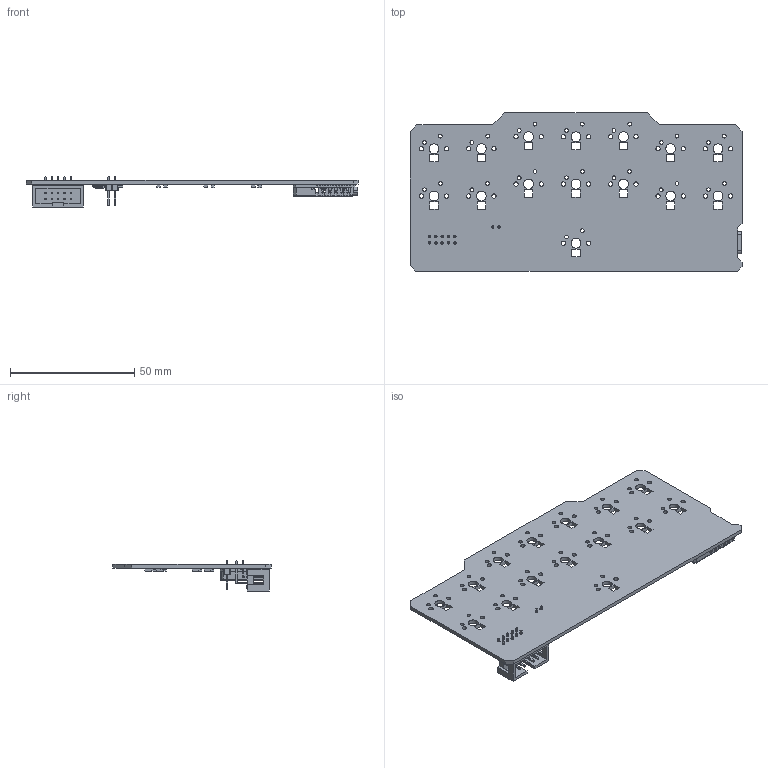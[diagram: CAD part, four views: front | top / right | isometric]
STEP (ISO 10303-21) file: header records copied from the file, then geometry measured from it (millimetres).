
FILE_DESCRIPTION(('KiCad electronic assembly'),'2;1');
FILE_NAME('keyboard.step','2026-02-09T20:20:30',('Pcbnew'),('Kicad'), 'Open CASCADE STEP processor 7.8','KiCad to STEP converter','Unknown' );
FILE_SCHEMA(('AUTOMOTIVE_DESIGN { 1 0 10303 214 1 1 1 1 }'));
Length unit declared in the file: millimetre
Products named in the file (55): keyboard 1; D_SOD-123F; TJA1050; C_0805_2012Metric; R_0805_2012Metric; PinHeader_1x02_P2.54mm_Vertical; IDC-Header_2x05_P2.54mm_Horizontal; M5STAMP-S3; PCB_ASM; BOARD_ASM; OPEN_CASCADE_STEP_TRANSLATO-237_ASM; OPEN_CASCADE_STEP_TRANSLATO-247; PHD1_ASM; M241_5MM_12_9MM00; R2_ASM; R0402_ASM; R1_ASM; J2_ASM; USB_TYPE_C_PORT__SMD_TYPE__ASM; USB_TYPE_C_PORT__SMD_TYPE__1; USB_TYPE_C_PORT__SMD_TYPE__2; USB_TYPE_C_PORT__SMD_TYPE__3; USB_TYPE_C_PORT__SMD_TYPE__4; USB_TYPE_C_PORT__SMD_TYPE__5; USB_TYPE_C_PORT__SMD_TYPE__6; USB_TYPE_C_PORT__SMD_TYPE__7; USB_TYPE_C_PORT__SMD_TYPE__8; USB_TYPE_C_PORT__SMD_TYPE__9; USB_TYPE_C_PORT__SMD_TYPE__10; USB_TYPE_C_PORT__SMD_TYPE__11; USB_TYPE_C_PORT__SMD_TYPE__12; USB_TYPE_C_PORT__SMD_TYPE__13; USB_TYPE_C_PORT__SMD_TYPE__14; USB_TYPE_C_PORT__SMD_TYPE__15; USB_TYPE_C_PORT__SMD_TYPE__16; USB_TYPE_C_PORT__SMD_TYPE__17; USB_TYPE_C_PORT__SMD_TYPE__18; USB_TYPE_C_PORT__SMD_TYPE__19; USB_TYPE_C_PORT__SMD_TYPE__20; USB_TYPE_C_PORT__SMD_TYPE__21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
Assembly tree (89 placements, depth 6):
  keyboard 1
    D_SOD-123F  x15
    TJA1050
    C_0805_2012Metric  x17
    R_0805_2012Metric  x3
    PinHeader_1x02_P2.54mm_Vertical
    IDC-Header_2x05_P2.54mm_Horizontal
    M5STAMP-S3
      PCB_ASM
        BOARD_ASM
          OPEN_CASCADE_STEP_TRANSLATO-237_ASM
            OPEN_CASCADE_STEP_TRANSLATO-247
        PHD1_ASM
          M241_5MM_12_9MM00
        R2_ASM
          R0402_ASM
        R1_ASM
          R0402_ASM
        J2_ASM
          USB_TYPE_C_PORT__SMD_TYPE__ASM
            USB_TYPE_C_PORT__SMD_TYPE__1
            USB_TYPE_C_PORT__SMD_TYPE__2
            USB_TYPE_C_PORT__SMD_TYPE__3
            USB_TYPE_C_PORT__SMD_TYPE__4
            USB_TYPE_C_PORT__SMD_TYPE__5
            USB_TYPE_C_PORT__SMD_TYPE__6
            USB_TYPE_C_PORT__SMD_TYPE__7
            USB_TYPE_C_PORT__SMD_TYPE__8
            USB_TYPE_C_PORT__SMD_TYPE__9
            USB_TYPE_C_PORT__SMD_TYPE__10
            USB_TYPE_C_PORT__SMD_TYPE__11
            USB_TYPE_C_PORT__SMD_TYPE__12
            USB_TYPE_C_PORT__SMD_TYPE__13
            USB_TYPE_C_PORT__SMD_TYPE__14
            USB_TYPE_C_PORT__SMD_TYPE__15
            USB_TYPE_C_PORT__SMD_TYPE__16
            USB_TYPE_C_PORT__SMD_TYPE__17
            USB_TYPE_C_PORT__SMD_TYPE__18
            USB_TYPE_C_PORT__SMD_TYPE__19
            USB_TYPE_C_PORT__SMD_TYPE__20
            USB_TYPE_C_PORT__SMD_TYPE__21
            USB_TYPE_C_PORT__SMD_TYPE__22
            USB_TYPE_C_PORT__SMD_TYPE__23
            USB_TYPE_C_PORT__SMD_TYPE__24
        C6_ASM
          C0402_10UF_ASM
        R3_ASM
          R0402_ASM
        C2_ASM
          C0402_100NF_ASM
        C11_ASM
          C0402_100NF_ASM
        C10_ASM
        ANT1_ASM
          USER_LIBRARY-PRO-OB-440
      STAMP-S3
      CHS-M2X3
    keyboard_PCB
Bounding box: 133.6 x 63.75 x 12.1 mm (x, y, z)
Volume: 13575.8 mm3; surface area: 22275.5 mm2
Topology: 76 solids, 76 shells, 2831 faces, 7417 edges, 4804 vertices
Faces by surface type: plane 1899, cylinder 713, bspline 155, cone 22, extrusion 21, torus 13, sphere 8
Full cylindrical faces by diameter (mm): 1 x18, 1.5 x30, 1.75 x30, 4 x15
Entity records: 72671 total; most frequent: CARTESIAN_POINT 12480, ORIENTED_EDGE 10560, DIRECTION 10259, EDGE_CURVE 5280, VECTOR 4145, LINE 4124, VERTEX_POINT 3444, AXIS2_PLACEMENT_3D 3057
